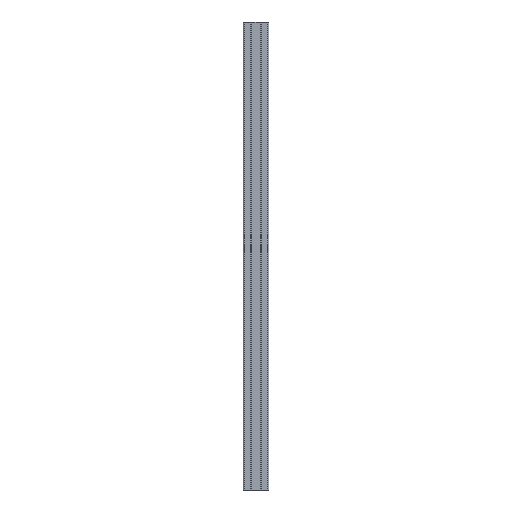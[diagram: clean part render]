
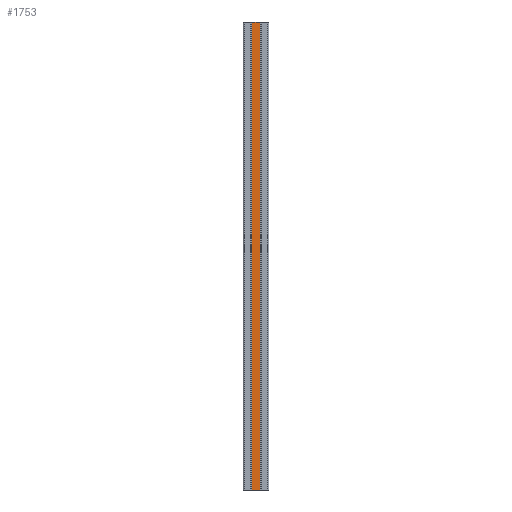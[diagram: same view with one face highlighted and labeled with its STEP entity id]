
A CAD part, left-side view. The second image highlights one B-rep face of the part: STEP entity #1753.
In plain terms, the highlighted planar face has unit normal (-1, 0, 0).
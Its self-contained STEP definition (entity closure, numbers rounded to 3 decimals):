
#3 = DIRECTION ( 'NONE',  ( 0., -1., 0. ) ) ;
#105 = LINE ( 'NONE', #739, #1480 ) ;
#107 = VERTEX_POINT ( 'NONE', #1649 ) ;
#165 = AXIS2_PLACEMENT_3D ( 'NONE', #996, #837, #1789 ) ;
#205 = VECTOR ( 'NONE', #1087, 1000. ) ;
#284 = CARTESIAN_POINT ( 'NONE',  ( -12.5, -9.5, -502.668 ) ) ;
#654 = CARTESIAN_POINT ( 'NONE',  ( -12.5, 9.5, -500. ) ) ;
#660 = PLANE ( 'NONE',  #165 ) ;
#665 = LINE ( 'NONE', #1008, #678 ) ;
#678 = VECTOR ( 'NONE', #3, 1000. ) ;
#733 = ORIENTED_EDGE ( 'NONE', *, *, #1160, .F. ) ;
#739 = CARTESIAN_POINT ( 'NONE',  ( -12.5, 27.5, 500. ) ) ;
#837 = DIRECTION ( 'NONE',  ( -1., 0., 0. ) ) ;
#900 = CARTESIAN_POINT ( 'NONE',  ( -12.5, 9.5, 500. ) ) ;
#905 = VERTEX_POINT ( 'NONE', #900 ) ;
#965 = EDGE_CURVE ( 'NONE', #905, #1936, #105, .T. ) ;
#977 = EDGE_CURVE ( 'NONE', #107, #1936, #1234, .T. ) ;
#996 = CARTESIAN_POINT ( 'NONE',  ( -12.5, 27.5, -500. ) ) ;
#1008 = CARTESIAN_POINT ( 'NONE',  ( -12.5, 27.5, -500. ) ) ;
#1048 = CARTESIAN_POINT ( 'NONE',  ( -12.5, -9.5, 500. ) ) ;
#1087 = DIRECTION ( 'NONE',  ( 0., 0., 1. ) ) ;
#1115 = ORIENTED_EDGE ( 'NONE', *, *, #977, .T. ) ;
#1160 = EDGE_CURVE ( 'NONE', #1462, #905, #1995, .T. ) ;
#1234 = LINE ( 'NONE', #284, #205 ) ;
#1329 = FACE_OUTER_BOUND ( 'NONE', #1862, .T. ) ;
#1419 = VECTOR ( 'NONE', #1596, 1000. ) ;
#1460 = EDGE_CURVE ( 'NONE', #1462, #107, #665, .T. ) ;
#1462 = VERTEX_POINT ( 'NONE', #654 ) ;
#1480 = VECTOR ( 'NONE', #1533, 1000. ) ;
#1533 = DIRECTION ( 'NONE',  ( 0., -1., 0. ) ) ;
#1596 = DIRECTION ( 'NONE',  ( 0., 0., 1. ) ) ;
#1609 = ORIENTED_EDGE ( 'NONE', *, *, #1460, .T. ) ;
#1649 = CARTESIAN_POINT ( 'NONE',  ( -12.5, -9.5, -500. ) ) ;
#1753 = ADVANCED_FACE ( 'NONE', ( #1329 ), #660, .T. ) ;
#1789 = DIRECTION ( 'NONE',  ( 0., 0., 1. ) ) ;
#1862 = EDGE_LOOP ( 'NONE', ( #733, #1609, #1115, #2081 ) ) ;
#1936 = VERTEX_POINT ( 'NONE', #1048 ) ;
#1995 = LINE ( 'NONE', #2088, #1419 ) ;
#2081 = ORIENTED_EDGE ( 'NONE', *, *, #965, .F. ) ;
#2088 = CARTESIAN_POINT ( 'NONE',  ( -12.5, 9.5, -502.668 ) ) ;
